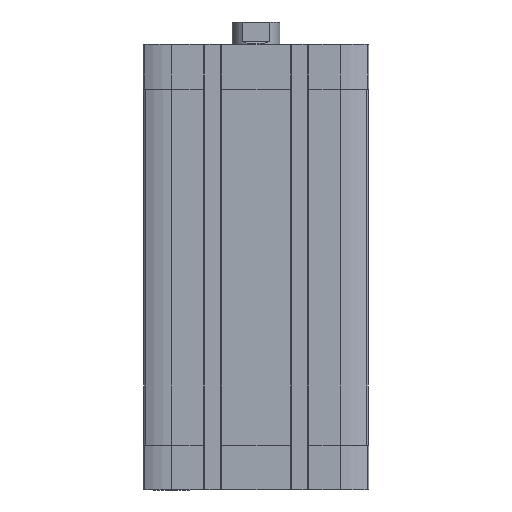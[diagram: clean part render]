
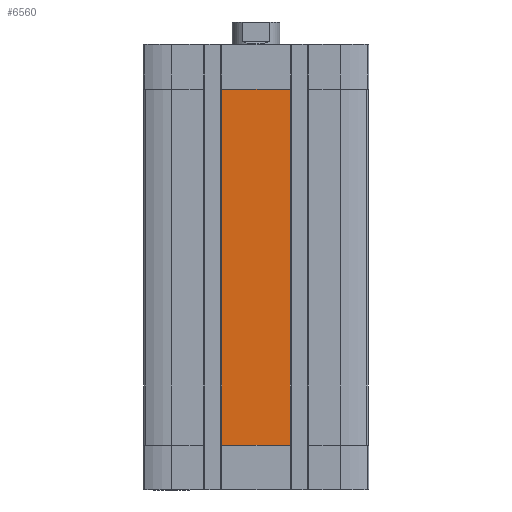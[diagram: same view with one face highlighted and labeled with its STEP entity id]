
A CAD part, front view. The second image highlights one B-rep face of the part: STEP entity #6560.
In plain terms, the highlighted planar face has unit normal (0, -1, 0).
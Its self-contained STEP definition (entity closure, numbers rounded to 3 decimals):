
#257 = CARTESIAN_POINT ( 'NONE',  ( 11.4, -37.5, -134. ) ) ;
#300 = LINE ( 'NONE', #10087, #3165 ) ;
#501 = DIRECTION ( 'NONE',  ( -1., 0., 0. ) ) ;
#565 = PLANE ( 'NONE',  #13903 ) ;
#640 = EDGE_CURVE ( 'NONE', #4337, #11953, #9281, .T. ) ;
#1084 = LINE ( 'NONE', #2511, #7148 ) ;
#1382 = EDGE_LOOP ( 'NONE', ( #10236, #14960, #3047, #7074 ) ) ;
#2232 = VERTEX_POINT ( 'NONE', #9939 ) ;
#2511 = CARTESIAN_POINT ( 'NONE',  ( 11.4, -37.5, -134. ) ) ;
#2919 = VECTOR ( 'NONE', #13849, 1000. ) ;
#3047 = ORIENTED_EDGE ( 'NONE', *, *, #7899, .T. ) ;
#3165 = VECTOR ( 'NONE', #501, 1000. ) ;
#3742 = DIRECTION ( 'NONE',  ( 0., 0., 1. ) ) ;
#4241 = DIRECTION ( 'NONE',  ( 0., 0., -1. ) ) ;
#4337 = VERTEX_POINT ( 'NONE', #9148 ) ;
#4594 = DIRECTION ( 'NONE',  ( 0., 0., -1. ) ) ;
#6560 = ADVANCED_FACE ( 'NONE', ( #13710 ), #565, .T. ) ;
#6974 = CARTESIAN_POINT ( 'NONE',  ( -11.4, -37.5, -134. ) ) ;
#7074 = ORIENTED_EDGE ( 'NONE', *, *, #10833, .T. ) ;
#7148 = VECTOR ( 'NONE', #3742, 1000. ) ;
#7200 = VECTOR ( 'NONE', #4594, 1000. ) ;
#7899 = EDGE_CURVE ( 'NONE', #2232, #11144, #300, .T. ) ;
#7953 = LINE ( 'NONE', #6974, #7200 ) ;
#8993 = CARTESIAN_POINT ( 'NONE',  ( -11.4, -37.5, -134. ) ) ;
#9148 = CARTESIAN_POINT ( 'NONE',  ( -11.4, -37.5, -134. ) ) ;
#9281 = LINE ( 'NONE', #14406, #2919 ) ;
#9766 = CARTESIAN_POINT ( 'NONE',  ( -11.4, -37.5, -15. ) ) ;
#9939 = CARTESIAN_POINT ( 'NONE',  ( 11.4, -37.5, -15. ) ) ;
#10087 = CARTESIAN_POINT ( 'NONE',  ( 0., -37.5, -15. ) ) ;
#10236 = ORIENTED_EDGE ( 'NONE', *, *, #640, .T. ) ;
#10833 = EDGE_CURVE ( 'NONE', #11144, #4337, #7953, .T. ) ;
#11144 = VERTEX_POINT ( 'NONE', #9766 ) ;
#11331 = DIRECTION ( 'NONE',  ( 0., -1., 0. ) ) ;
#11953 = VERTEX_POINT ( 'NONE', #257 ) ;
#12760 = EDGE_CURVE ( 'NONE', #11953, #2232, #1084, .T. ) ;
#13710 = FACE_OUTER_BOUND ( 'NONE', #1382, .T. ) ;
#13849 = DIRECTION ( 'NONE',  ( 1., 0., 0. ) ) ;
#13903 = AXIS2_PLACEMENT_3D ( 'NONE', #8993, #11331, #4241 ) ;
#14406 = CARTESIAN_POINT ( 'NONE',  ( -11.4, -37.5, -134. ) ) ;
#14960 = ORIENTED_EDGE ( 'NONE', *, *, #12760, .T. ) ;
